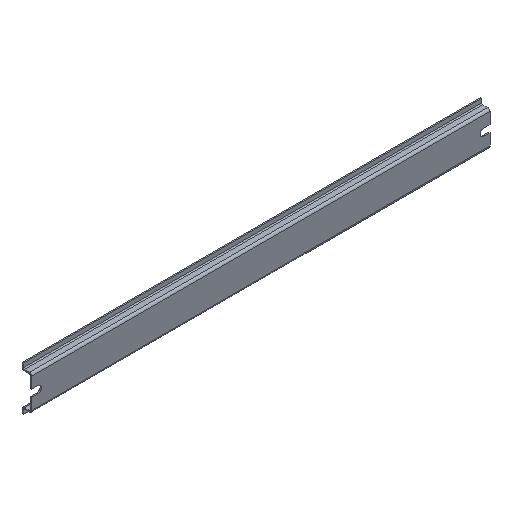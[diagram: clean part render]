
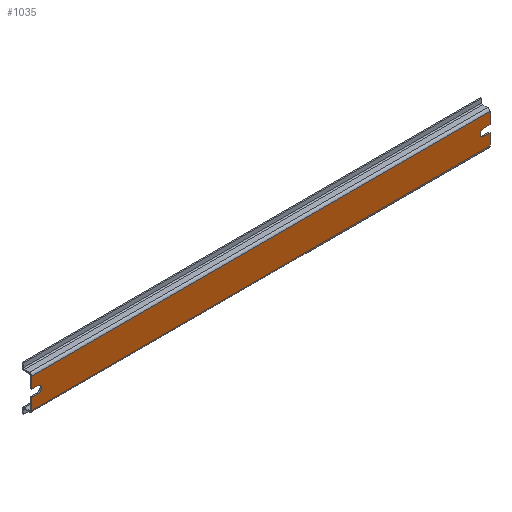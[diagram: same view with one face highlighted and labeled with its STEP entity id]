
A CAD part, isometric view. The second image highlights one B-rep face of the part: STEP entity #1035.
In plain terms, the highlighted planar face has unit normal (0, -1, 0).
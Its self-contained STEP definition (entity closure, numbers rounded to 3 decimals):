
#289=DIRECTION('',(0.,0.,-1.));
#290=VECTOR('',#289,8.95);
#291=CARTESIAN_POINT('',(-180.,0.,11.7));
#292=LINE('',#291,#290);
#303=DIRECTION('',(0.,0.,-1.));
#304=VECTOR('',#303,8.95);
#305=CARTESIAN_POINT('',(-180.,0.,-2.75));
#306=LINE('',#305,#304);
#384=DIRECTION('',(-1.,0.,0.));
#385=VECTOR('',#384,5.);
#386=CARTESIAN_POINT('',(180.,0.,-2.75));
#387=LINE('',#386,#385);
#391=DIRECTION('',(1.,0.,0.));
#392=VECTOR('',#391,5.);
#393=CARTESIAN_POINT('',(-180.,0.,-2.75));
#394=LINE('',#393,#392);
#398=CARTESIAN_POINT('',(-175.,0.,0.));
#399=DIRECTION('',(0.,1.,0.));
#400=DIRECTION('',(0.,0.,1.));
#401=AXIS2_PLACEMENT_3D('',#398,#399,#400);
#406=DIRECTION('',(1.,0.,0.));
#407=VECTOR('',#406,5.);
#408=CARTESIAN_POINT('',(-180.,0.,2.75));
#409=LINE('',#408,#407);
#413=DIRECTION('',(1.,0.,0.));
#414=VECTOR('',#413,360.);
#415=CARTESIAN_POINT('',(-180.,0.,11.7));
#416=LINE('',#415,#414);
#420=DIRECTION('',(-1.,0.,0.));
#421=VECTOR('',#420,5.);
#422=CARTESIAN_POINT('',(180.,0.,2.75));
#423=LINE('',#422,#421);
#427=CARTESIAN_POINT('',(175.,0.,0.));
#428=DIRECTION('',(0.,1.,0.));
#429=DIRECTION('',(0.,0.,-1.));
#430=AXIS2_PLACEMENT_3D('',#427,#428,#429);
#516=DIRECTION('',(0.,0.,-1.));
#517=VECTOR('',#516,8.95);
#518=CARTESIAN_POINT('',(180.,0.,-2.75));
#519=LINE('',#518,#517);
#530=DIRECTION('',(0.,0.,-1.));
#531=VECTOR('',#530,8.95);
#532=CARTESIAN_POINT('',(180.,0.,11.7));
#533=LINE('',#532,#531);
#809=DIRECTION('',(1.,0.,0.));
#810=VECTOR('',#809,360.);
#811=CARTESIAN_POINT('',(-180.,0.,-11.7));
#812=LINE('',#811,#810);
#824=CARTESIAN_POINT('',(-180.,0.,11.7));
#825=VERTEX_POINT('',#824);
#826=CARTESIAN_POINT('',(-180.,0.,-11.7));
#828=VERTEX_POINT('',#826);
#864=CARTESIAN_POINT('',(180.,0.,11.7));
#865=VERTEX_POINT('',#864);
#866=CARTESIAN_POINT('',(180.,0.,-11.7));
#868=VERTEX_POINT('',#866);
#896=CARTESIAN_POINT('',(-180.,0.,2.75));
#898=VERTEX_POINT('',#896);
#900=CARTESIAN_POINT('',(-180.,0.,-2.75));
#902=VERTEX_POINT('',#900);
#904=CARTESIAN_POINT('',(180.,0.,-2.75));
#906=VERTEX_POINT('',#904);
#908=CARTESIAN_POINT('',(180.,0.,2.75));
#910=VERTEX_POINT('',#908);
#912=CARTESIAN_POINT('',(175.,0.,-2.75));
#913=VERTEX_POINT('',#912);
#914=CARTESIAN_POINT('',(175.,0.,2.75));
#915=VERTEX_POINT('',#914);
#916=CARTESIAN_POINT('',(-175.,0.,2.75));
#917=VERTEX_POINT('',#916);
#918=CARTESIAN_POINT('',(-175.,0.,-2.75));
#919=VERTEX_POINT('',#918);
#1007=CARTESIAN_POINT('',(-180.,0.,11.7));
#1008=DIRECTION('',(0.,-1.,0.));
#1009=DIRECTION('',(0.,0.,-1.));
#1010=AXIS2_PLACEMENT_3D('',#1007,#1008,#1009);
#1011=PLANE('',#1010);
#1013=ORIENTED_EDGE('',*,*,#1012,.F.);
#1015=ORIENTED_EDGE('',*,*,#1014,.T.);
#1017=ORIENTED_EDGE('',*,*,#1016,.F.);
#1018=ORIENTED_EDGE('',*,*,#967,.F.);
#1020=ORIENTED_EDGE('',*,*,#1019,.T.);
#1022=ORIENTED_EDGE('',*,*,#1021,.F.);
#1023=ORIENTED_EDGE('',*,*,#998,.F.);
#1024=ORIENTED_EDGE('',*,*,#955,.F.);
#1026=ORIENTED_EDGE('',*,*,#1025,.T.);
#1028=ORIENTED_EDGE('',*,*,#1027,.T.);
#1030=ORIENTED_EDGE('',*,*,#1029,.T.);
#1032=ORIENTED_EDGE('',*,*,#1031,.F.);
#1033=EDGE_LOOP('',(#1013,#1015,#1017,#1018,#1020,#1022,#1023,#1024,#1026,#1028,
#1030,#1032));
#1034=FACE_OUTER_BOUND('',#1033,.F.);
#1035=ADVANCED_FACE('',(#1034),#1011,.T.);
#402=CIRCLE('',#401,2.75);
#431=CIRCLE('',#430,2.75);
#955=EDGE_CURVE('',#825,#898,#292,.T.);
#967=EDGE_CURVE('',#902,#828,#306,.T.);
#998=EDGE_CURVE('',#898,#917,#409,.T.);
#1012=EDGE_CURVE('',#906,#913,#387,.T.);
#1014=EDGE_CURVE('',#906,#868,#519,.T.);
#1016=EDGE_CURVE('',#828,#868,#812,.T.);
#1019=EDGE_CURVE('',#902,#919,#394,.T.);
#1021=EDGE_CURVE('',#917,#919,#402,.T.);
#1025=EDGE_CURVE('',#825,#865,#416,.T.);
#1027=EDGE_CURVE('',#865,#910,#533,.T.);
#1029=EDGE_CURVE('',#910,#915,#423,.T.);
#1031=EDGE_CURVE('',#913,#915,#431,.T.);
